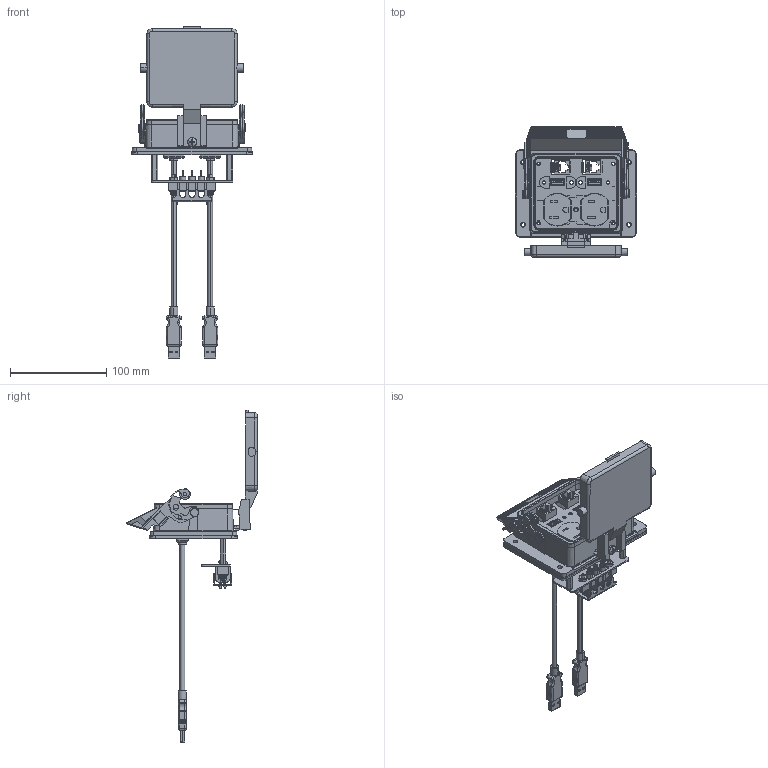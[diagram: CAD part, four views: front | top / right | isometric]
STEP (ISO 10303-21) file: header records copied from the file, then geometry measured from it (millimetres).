
FILE_DESCRIPTION (( 'STEP AP214' ), '1' );
FILE_NAME ('DP-2USB-ZZ-2RJ45-32.STEP', '2006-07-13T20:21:18', ( 'Mencom User' ), ( 'Mencom Corporation' ), 'SwSTEP 2.0', 'SolidWorks 2006104', '' );
FILE_SCHEMA (( 'AUTOMOTIVE_DESIGN' ));
Length unit declared in the file: inch
Products named in the file (1): DP-2USB-ZZ-2RJ45-32
Bounding box: 125.98 x 135.79 x 345.44 mm (x, y, z)
Surface area: 135891.9 mm2 (no closed solid volume)
Topology: 0 solids, 97 shells, 1727 faces, 6741 edges, 4915 vertices
Faces by surface type: plane 1099, cylinder 480, torus 54, sphere 38, cone 30, bspline 26
Entity records: 105872 total; most frequent: CARTESIAN_POINT 28200, DIRECTION 11012, ORIENTED_EDGE 10460, EDGE_CURVE 6709, VERTEX_POINT 4915, VECTOR 4674, LINE 4674, AXIS2_PLACEMENT_3D 3169
